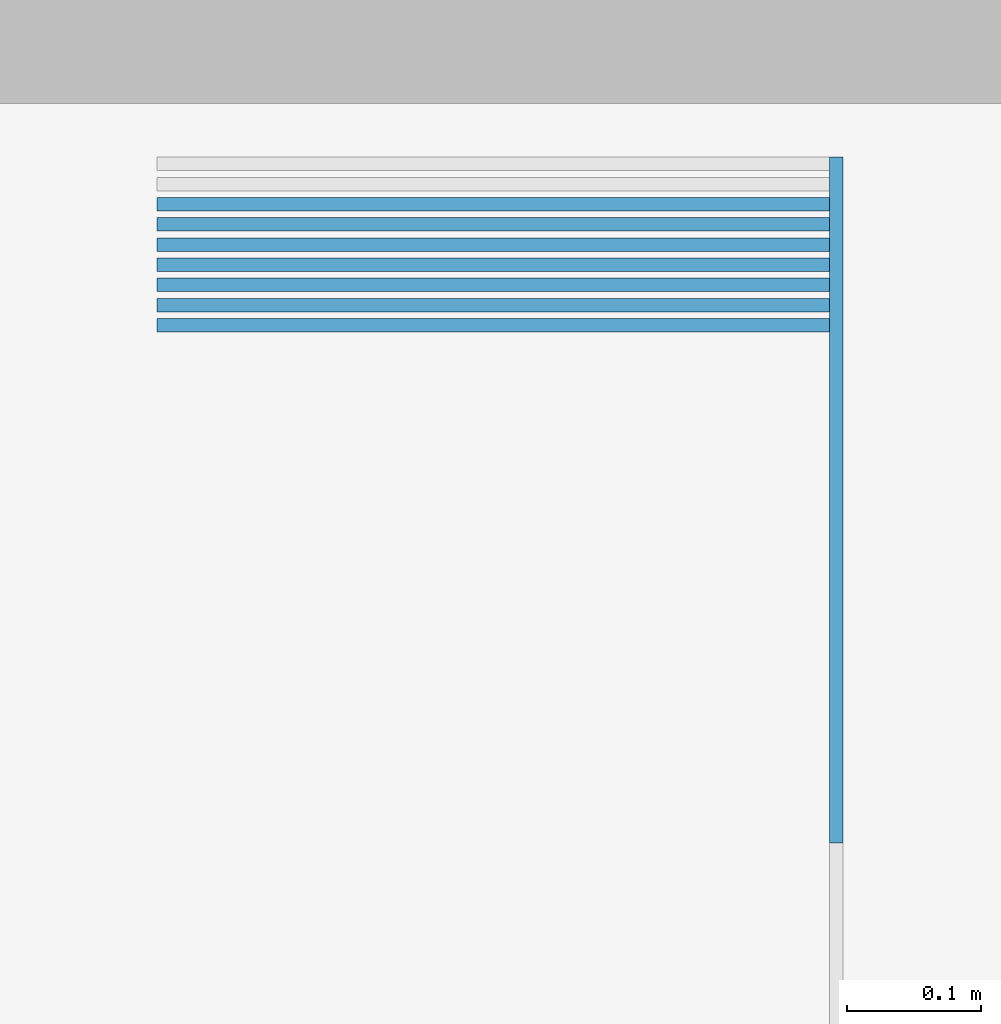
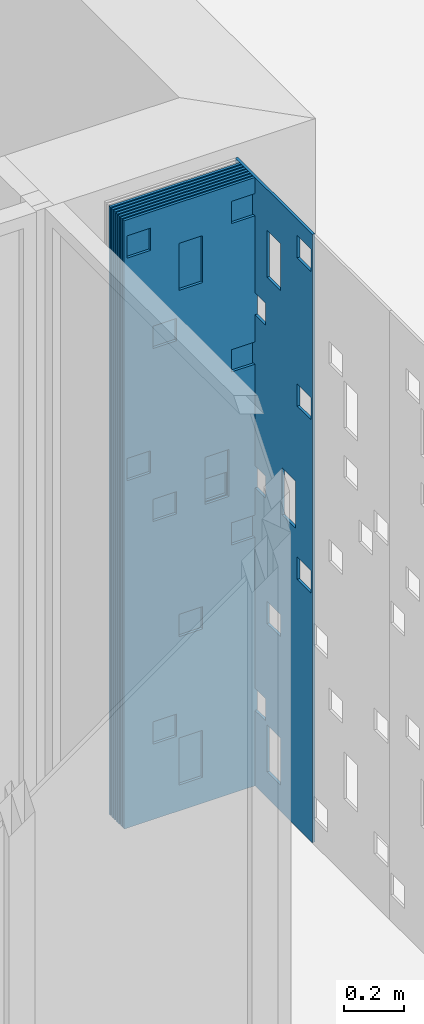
# One storey, part 9 of 51: 8 beams.
"""IFC2X3 building model written with IfcOpenShell, lengths in metres."""

from ifc_helpers import new_model, entity, si_unit, converted_unit, derived_unit, direction, frame, origin, place, context, subcontext, project, spatial, polyline, outline, extrude, material, type_object, element, save


model = new_model("IFC2X3")

# Units and contexts
model_context = context("Model", 3, precision=1e-05, world=origin(), true_north=direction((6.123031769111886e-17, 1.0)))
body_context = subcontext(model_context, "Body", "Model", "MODEL_VIEW")
ifc_project = project(units=[si_unit("LENGTHUNIT", "METRE"), si_unit("AREAUNIT", "SQUARE_METRE"), si_unit("VOLUMEUNIT", "CUBIC_METRE"), converted_unit("PLANEANGLEUNIT", "DEGREE", entity("IfcRatioMeasure", 0.017453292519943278), si_unit("PLANEANGLEUNIT", "RADIAN"), dimensions=[0, 0, 0, 0, 0, 0, 0]), si_unit("MASSUNIT", "GRAM", prefix="KILO"), derived_unit("MASSDENSITYUNIT", [(si_unit("MASSUNIT", "GRAM", prefix="KILO"), 1), (si_unit("LENGTHUNIT", "METRE"), -3)]), derived_unit("MOMENTOFINERTIAUNIT", [(si_unit("LENGTHUNIT", "METRE"), 4)]), si_unit("TIMEUNIT", "SECOND"), si_unit("FREQUENCYUNIT", "HERTZ"), si_unit("THERMODYNAMICTEMPERATUREUNIT", "DEGREE_CELSIUS"), derived_unit("THERMALTRANSMITTANCEUNIT", [(si_unit("MASSUNIT", "GRAM", prefix="KILO"), 1), (si_unit("THERMODYNAMICTEMPERATUREUNIT", "KELVIN"), -1), (si_unit("TIMEUNIT", "SECOND"), -3)]), derived_unit("THERMALCONDUCTANCEUNIT", [(si_unit("MASSUNIT", "GRAM", prefix="KILO"), 1), (si_unit("LENGTHUNIT", "METRE"), 1), (si_unit("THERMODYNAMICTEMPERATUREUNIT", "KELVIN"), -1), (si_unit("TIMEUNIT", "SECOND"), -3)]), derived_unit("VOLUMETRICFLOWRATEUNIT", [(si_unit("LENGTHUNIT", "METRE"), 3), (si_unit("TIMEUNIT", "SECOND"), -1)]), derived_unit("MASSFLOWRATEUNIT", [(si_unit("MASSUNIT", "GRAM", prefix="KILO"), 1), (si_unit("TIMEUNIT", "SECOND"), -1)]), derived_unit("ROTATIONALFREQUENCYUNIT", [(si_unit("TIMEUNIT", "SECOND"), -1)]), si_unit("ELECTRICCURRENTUNIT", "AMPERE"), si_unit("ELECTRICVOLTAGEUNIT", "VOLT"), si_unit("POWERUNIT", "WATT"), si_unit("FORCEUNIT", "NEWTON", prefix="KILO"), si_unit("ILLUMINANCEUNIT", "LUX"), si_unit("LUMINOUSFLUXUNIT", "LUMEN"), si_unit("LUMINOUSINTENSITYUNIT", "CANDELA"), derived_unit("USERDEFINED", [(si_unit("MASSUNIT", "GRAM", prefix="KILO"), -1), (si_unit("LENGTHUNIT", "METRE"), -2), (si_unit("TIMEUNIT", "SECOND"), 3), (si_unit("LUMINOUSFLUXUNIT", "LUMEN"), 1)]), derived_unit("USERDEFINED", [(si_unit("MASSUNIT", "GRAM", prefix="KILO"), 1), (si_unit("LENGTHUNIT", "METRE"), 3), (si_unit("TIMEUNIT", "SECOND"), -3), (si_unit("ELECTRICCURRENTUNIT", "AMPERE"), -2)]), derived_unit("USERDEFINED", [(si_unit("LENGTHUNIT", "METRE"), 2), (si_unit("TIMEUNIT", "SECOND"), -2)]), derived_unit("SOUNDPOWERUNIT", [(si_unit("MASSUNIT", "GRAM", prefix="KILO"), 1), (si_unit("LENGTHUNIT", "METRE"), 2), (si_unit("TIMEUNIT", "SECOND"), -3)]), derived_unit("SOUNDPRESSUREUNIT", [(si_unit("MASSUNIT", "GRAM", prefix="KILO"), 1), (si_unit("LENGTHUNIT", "METRE"), -1), (si_unit("TIMEUNIT", "SECOND"), -2)]), derived_unit("LINEARVELOCITYUNIT", [(si_unit("LENGTHUNIT", "METRE"), 1), (si_unit("TIMEUNIT", "SECOND"), -1)]), si_unit("PRESSUREUNIT", "PASCAL"), derived_unit("USERDEFINED", [(si_unit("LENGTHUNIT", "METRE"), -2), (si_unit("MASSUNIT", "GRAM", prefix="KILO"), 1), (si_unit("TIMEUNIT", "SECOND"), -2)]), derived_unit("LINEARFORCEUNIT", [(si_unit("MASSUNIT", "GRAM", prefix="KILO"), 1), (si_unit("LENGTHUNIT", "METRE"), 1), (si_unit("TIMEUNIT", "SECOND"), -2), (si_unit("LENGTHUNIT", "METRE"), -1)]), derived_unit("PLANARFORCEUNIT", [(si_unit("MASSUNIT", "GRAM", prefix="KILO"), 1), (si_unit("LENGTHUNIT", "METRE"), 1), (si_unit("TIMEUNIT", "SECOND"), -2), (si_unit("LENGTHUNIT", "METRE"), -2)]), derived_unit("SPECIFICHEATCAPACITYUNIT", [(si_unit("LENGTHUNIT", "METRE"), 2), (si_unit("TIMEUNIT", "SECOND"), -2), (si_unit("THERMODYNAMICTEMPERATUREUNIT", "KELVIN"), -1)]), derived_unit("VAPORPERMEABILITYUNIT", [(si_unit("TIMEUNIT", "SECOND"), 1), (si_unit("LENGTHUNIT", "METRE"), -1)]), derived_unit("DYNAMICVISCOSITYUNIT", [(si_unit("MASSUNIT", "GRAM", prefix="KILO"), 1), (si_unit("LENGTHUNIT", "METRE"), -1), (si_unit("TIMEUNIT", "SECOND"), -1)]), derived_unit("THERMALEXPANSIONCOEFFICIENTUNIT", [(si_unit("THERMODYNAMICTEMPERATUREUNIT", "KELVIN"), -1)])], contexts=[model_context])

# Site, building, storey
site_placement = place(None, origin())
site = spatial("IfcSite", under=ifc_project, at=site_placement, Name="Default", CompositionType="ELEMENT")
building_placement = place(site_placement, origin())
building = spatial("IfcBuilding", under=site, at=building_placement, CompositionType="ELEMENT")
storey_placement = place(building_placement, frame((0.0, 0.0, 3.06)))
storey = spatial("IfcBuildingStorey", under=building, at=storey_placement, Name="ÉTAGE", CompositionType="ELEMENT", Elevation=3.06)

# Beams
ifc_material = material(Name="Peinture - Gris foncé")
beam_type_1 = type_object("IfcBeamType", Name="Poutre-017 459277:Poutre-017 459277", PredefinedType="NOTDEFINED")
beam_1_placement = place(storey_placement, origin())
element("IfcBeam", 1, at=beam_1_placement, inside=storey, type_object=beam_type_1, material=ifc_material, Name="Poutre-017", ObjectType="Poutre-017 459277:Poutre-017 459277", context=body_context, shape_type="SweptSolid", body=[
    extrude(outline(polyline([(-1.2299999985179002, -0.25500001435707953), (1.2299999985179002, -0.25500001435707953), (1.2299999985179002, 0.2550000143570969), (-1.2299999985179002, 0.2550000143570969), (-1.2299999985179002, -0.25500001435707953)]), holes=[polyline([(-0.33499998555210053, 0.15499994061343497), (-0.42500001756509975, 0.15499994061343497), (-0.42500001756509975, 0.24500001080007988), (-0.33499998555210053, 0.24500001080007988), (-0.33499998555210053, 0.15499994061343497)]), polyline([(-1.1249999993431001, 0.24500001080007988), (-1.0349999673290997, 0.24500001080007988), (-1.0349999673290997, 0.15499994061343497), (-1.1249999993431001, 0.15499994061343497), (-1.1249999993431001, 0.24500001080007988)]), polyline([(-0.6250000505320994, 0.054999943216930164), (-0.6250000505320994, 0.14499997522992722), (-0.5349999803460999, 0.14499997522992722), (-0.5349999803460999, 0.054999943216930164), (-0.6250000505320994, 0.054999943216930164)]), polyline([(-0.9250000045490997, 0.04499993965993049), (-0.7350000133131, 0.04499993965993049), (-0.7350000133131, -0.0449999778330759), (-0.9250000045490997, -0.0449999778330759), (-0.9250000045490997, 0.04499993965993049)]), polyline([(-0.5250000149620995, -0.24500001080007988), (-0.5250000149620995, -0.1549999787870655), (-0.4349999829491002, -0.1549999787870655), (-0.4349999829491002, -0.24500001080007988), (-0.5250000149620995, -0.24500001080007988)]), polyline([(-1.0250000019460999, -0.24500001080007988), (-1.0250000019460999, -0.1549999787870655), (-0.9349999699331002, -0.1549999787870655), (-0.9349999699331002, -0.24500001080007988), (-1.0250000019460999, -0.24500001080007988)]), polyline([(0.8649999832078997, 0.054999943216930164), (0.7749999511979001, 0.054999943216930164), (0.7749999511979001, 0.14499997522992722), (0.8649999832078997, 0.14499997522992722), (0.8649999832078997, 0.054999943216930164)]), polyline([(-0.024999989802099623, 0.054999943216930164), (-0.024999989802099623, 0.14499997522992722), (0.06500004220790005, 0.14499997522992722), (0.06500004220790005, 0.054999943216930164), (-0.024999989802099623, 0.054999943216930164)]), polyline([(0.3749999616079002, 0.04499993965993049), (0.4650000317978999, 0.04499993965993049), (0.4650000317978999, -0.0449999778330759), (0.3749999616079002, -0.0449999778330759), (0.3749999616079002, 0.04499993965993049)]), polyline([(0.7650000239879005, -0.0449999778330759), (0.5749999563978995, -0.0449999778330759), (0.5749999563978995, 0.04499993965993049), (0.7650000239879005, 0.04499993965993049), (0.7650000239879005, -0.0449999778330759)]), polyline([(0.2649999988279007, -0.14499997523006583), (0.17499996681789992, -0.14499997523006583), (0.17499996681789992, -0.055000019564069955), (0.2649999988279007, -0.055000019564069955), (0.2649999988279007, -0.14499997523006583)]), polyline([(0.3649999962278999, -0.24500001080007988), (0.27499996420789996, -0.24500001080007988), (0.27499996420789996, -0.1549999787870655), (0.3649999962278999, -0.1549999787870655), (0.3649999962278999, -0.24500001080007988)])]), frame((151.72575229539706, 12.3322096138, 2.4600000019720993), z_axis=(0.0, 1.0, 0.0), x_axis=(0.0, 0.0, 1.0)), (0.0, 0.0, 1.0), 0.009999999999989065),
])
beam_2_placement = place(storey_placement, origin())
element("IfcBeam", 2, at=beam_2_placement, inside=storey, type_object=beam_type_1, material=ifc_material, Name="Poutre-017", ObjectType="Poutre-017 459277:Poutre-017 459277", context=body_context, shape_type="SweptSolid", body=[
    extrude(outline(polyline([(-0.25500001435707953, -1.2299999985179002), (0.2550000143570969, -1.2299999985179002), (0.2550000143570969, 1.2299999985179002), (-0.25500001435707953, 1.2299999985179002), (-0.25500001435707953, -1.2299999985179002)]), holes=[polyline([(0.15499994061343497, -0.33499998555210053), (0.24500001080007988, -0.33499998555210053), (0.24500001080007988, -0.42500001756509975), (0.15499994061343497, -0.42500001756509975), (0.15499994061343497, -0.33499998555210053)]), polyline([(0.24500001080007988, -1.1249999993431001), (0.15499994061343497, -1.1249999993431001), (0.15499994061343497, -1.0349999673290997), (0.24500001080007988, -1.0349999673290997), (0.24500001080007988, -1.1249999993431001)]), polyline([(0.054999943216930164, -0.6250000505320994), (0.054999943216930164, -0.5349999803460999), (0.14499997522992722, -0.5349999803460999), (0.14499997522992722, -0.6250000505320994), (0.054999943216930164, -0.6250000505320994)]), polyline([(0.04499993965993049, -0.9250000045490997), (-0.0449999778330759, -0.9250000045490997), (-0.0449999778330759, -0.7350000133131), (0.04499993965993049, -0.7350000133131), (0.04499993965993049, -0.9250000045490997)]), polyline([(-0.24500001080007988, -0.5250000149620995), (-0.24500001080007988, -0.4349999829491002), (-0.1549999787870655, -0.4349999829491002), (-0.1549999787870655, -0.5250000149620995), (-0.24500001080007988, -0.5250000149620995)]), polyline([(-0.24500001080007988, -1.0250000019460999), (-0.24500001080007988, -0.9349999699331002), (-0.1549999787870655, -0.9349999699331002), (-0.1549999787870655, -1.0250000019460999), (-0.24500001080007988, -1.0250000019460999)]), polyline([(0.054999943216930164, 0.8649999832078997), (0.14499997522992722, 0.8649999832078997), (0.14499997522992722, 0.7749999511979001), (0.054999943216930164, 0.7749999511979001), (0.054999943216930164, 0.8649999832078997)]), polyline([(0.054999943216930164, -0.024999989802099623), (0.054999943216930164, 0.06500004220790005), (0.14499997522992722, 0.06500004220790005), (0.14499997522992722, -0.024999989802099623), (0.054999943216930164, -0.024999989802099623)]), polyline([(0.04499993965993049, 0.3749999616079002), (-0.0449999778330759, 0.3749999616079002), (-0.0449999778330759, 0.4650000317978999), (0.04499993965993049, 0.4650000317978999), (0.04499993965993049, 0.3749999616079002)]), polyline([(-0.0449999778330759, 0.7650000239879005), (0.04499993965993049, 0.7650000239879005), (0.04499993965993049, 0.5749999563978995), (-0.0449999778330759, 0.5749999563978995), (-0.0449999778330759, 0.7650000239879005)]), polyline([(-0.14499997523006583, 0.2649999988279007), (-0.055000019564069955, 0.2649999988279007), (-0.055000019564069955, 0.17499996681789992), (-0.14499997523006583, 0.17499996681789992), (-0.14499997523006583, 0.2649999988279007)]), polyline([(-0.24500001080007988, 0.3649999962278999), (-0.1549999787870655, 0.3649999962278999), (-0.1549999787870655, 0.27499996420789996), (-0.24500001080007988, 0.27499996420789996), (-0.24500001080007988, 0.3649999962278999)])]), frame((151.7257523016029, 12.377209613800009, 2.4600000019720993), z_axis=(0.0, 1.0, 0.0), x_axis=(-1.0, 0.0, 0.0)), (0.0, 0.0, 1.0), 0.009999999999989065),
])
beam_type_2 = type_object("IfcBeamType", Name="Poutre-017 459324:Poutre-017 459324", PredefinedType="NOTDEFINED")
beam_3_placement = place(storey_placement, origin())
element("IfcBeam", 3, at=beam_3_placement, inside=storey, type_object=beam_type_2, material=ifc_material, Name="Poutre-017", ObjectType="Poutre-017 459324:Poutre-017 459324", context=body_context, shape_type="SweptSolid", body=[
    extrude(outline(polyline([(-0.2549999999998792, -1.2299999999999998), (0.2549999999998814, -1.2299999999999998), (0.2549999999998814, 1.2300000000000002), (-0.2549999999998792, 1.2300000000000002), (-0.2549999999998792, -1.2299999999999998)]), holes=[polyline([(-0.054999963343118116, 0.8349999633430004), (-0.14499996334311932, 0.8349999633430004), (-0.14499996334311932, 0.9249999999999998), (-0.054999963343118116, 0.9249999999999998), (-0.054999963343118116, 0.8349999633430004)]), polyline([(0.04499999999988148, 0.5250000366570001), (0.04499999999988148, 0.43499996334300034), (-0.044999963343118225, 0.43499996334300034), (-0.044999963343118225, 0.5250000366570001), (0.04499999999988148, 0.5250000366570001)]), polyline([(0.04499999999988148, 0.9349999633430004), (-0.044999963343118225, 0.9349999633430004), (-0.044999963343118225, 1.1250000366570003), (0.04499999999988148, 1.1250000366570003), (0.04499999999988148, 0.9349999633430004)]), polyline([(0.2449999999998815, 0.22500000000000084), (0.2449999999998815, 0.13499999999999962), (0.15499999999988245, 0.13499999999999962), (0.15499999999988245, 0.22500000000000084), (0.2449999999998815, 0.22500000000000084)]), polyline([(-0.15499996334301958, -1.0749999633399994), (-0.15499996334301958, -1.1649999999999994), (-0.24499999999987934, -1.1649999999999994), (-0.24499999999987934, -1.0749999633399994), (-0.15499996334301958, -1.0749999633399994)]), polyline([(-0.044999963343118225, -0.8750000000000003), (0.04499999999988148, -0.8750000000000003), (0.04499999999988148, -1.0649999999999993), (-0.044999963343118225, -1.0649999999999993), (-0.044999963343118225, -0.8750000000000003)]), polyline([(0.2449999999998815, -1.1649999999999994), (0.15499999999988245, -1.1649999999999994), (0.15499999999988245, -1.0749999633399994), (0.2449999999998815, -1.0749999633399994), (0.2449999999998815, -1.1649999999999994)]), polyline([(-0.15499996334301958, -0.26500003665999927), (-0.24499999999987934, -0.26500003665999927), (-0.24499999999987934, -0.1749999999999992), (-0.15499996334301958, -0.1749999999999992), (-0.15499996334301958, -0.26500003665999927)]), polyline([(-0.054999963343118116, -0.06500000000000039), (-0.14499996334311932, -0.06500000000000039), (-0.14499996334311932, 0.025000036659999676), (-0.054999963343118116, 0.025000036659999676), (-0.054999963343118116, -0.06500000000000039)]), polyline([(-0.054999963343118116, -0.7650000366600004), (-0.14499996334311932, -0.7650000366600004), (-0.14499996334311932, -0.6749999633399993), (-0.054999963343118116, -0.6749999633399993), (-0.054999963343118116, -0.7650000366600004)]), polyline([(0.14499999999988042, -0.16500003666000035), (0.0550000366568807, -0.16500003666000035), (0.0550000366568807, 0.02499999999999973), (0.14499999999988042, 0.02499999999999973), (0.14499999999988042, -0.16500003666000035)]), polyline([(0.2449999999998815, -0.4750000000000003), (0.2449999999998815, -0.5649999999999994), (0.15499999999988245, -0.5649999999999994), (0.15499999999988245, -0.4750000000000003), (0.2449999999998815, -0.4750000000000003)])]), frame((151.970752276, 12.19220961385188, 2.459999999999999), z_axis=(1.0, 0.0, 0.0), x_axis=(0.0, -1.0, 0.0)), (0.0, 0.0, 1.0), 0.009999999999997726),
])
beam_4_placement = place(storey_placement, origin())
element("IfcBeam", 4, at=beam_4_placement, inside=storey, type_object=beam_type_2, material=ifc_material, Name="Poutre-017", ObjectType="Poutre-017 459324:Poutre-017 459324", context=body_context, shape_type="SweptSolid", body=[
    extrude(outline(polyline([(-0.2549999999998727, -1.2299999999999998), (0.25499999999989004, -1.2299999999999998), (0.25499999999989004, 1.2300000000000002), (-0.2549999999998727, 1.2300000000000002), (-0.2549999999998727, -1.2299999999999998)]), holes=[polyline([(-0.05499996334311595, 0.8349999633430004), (-0.14499996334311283, 0.8349999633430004), (-0.14499996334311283, 0.9249999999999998), (-0.05499996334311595, 0.9249999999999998), (-0.05499996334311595, 0.8349999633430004)]), polyline([(0.04499999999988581, 0.5250000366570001), (0.04499999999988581, 0.43499996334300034), (-0.044999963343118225, 0.43499996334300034), (-0.044999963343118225, 0.5250000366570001), (0.04499999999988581, 0.5250000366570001)]), polyline([(0.04499999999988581, 0.9349999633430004), (-0.044999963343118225, 0.9349999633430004), (-0.044999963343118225, 1.1250000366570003), (0.04499999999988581, 1.1250000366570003), (0.04499999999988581, 0.9349999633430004)]), polyline([(0.24499999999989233, 0.22500000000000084), (0.24499999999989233, 0.13499999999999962), (0.15499999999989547, 0.13499999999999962), (0.15499999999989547, 0.22500000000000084), (0.24499999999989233, 0.22500000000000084)]), polyline([(-0.15499996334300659, -1.0749999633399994), (-0.15499996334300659, -1.1649999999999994), (-0.244999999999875, -1.1649999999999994), (-0.244999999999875, -1.0749999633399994), (-0.15499996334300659, -1.0749999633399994)]), polyline([(-0.044999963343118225, -0.8750000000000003), (0.04499999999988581, -0.8750000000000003), (0.04499999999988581, -1.0649999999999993), (-0.044999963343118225, -1.0649999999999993), (-0.044999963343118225, -0.8750000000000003)]), polyline([(0.24499999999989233, -1.1649999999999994), (0.15499999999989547, -1.1649999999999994), (0.15499999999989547, -1.0749999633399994), (0.24499999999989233, -1.0749999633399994), (0.24499999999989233, -1.1649999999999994)]), polyline([(-0.15499996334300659, -0.26500003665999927), (-0.244999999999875, -0.26500003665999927), (-0.244999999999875, -0.1749999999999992), (-0.15499996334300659, -0.1749999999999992), (-0.15499996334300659, -0.26500003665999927)]), polyline([(-0.05499996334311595, -0.06500000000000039), (-0.14499996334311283, -0.06500000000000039), (-0.14499996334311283, 0.025000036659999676), (-0.05499996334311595, 0.025000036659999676), (-0.05499996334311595, -0.06500000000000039)]), polyline([(-0.05499996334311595, -0.7650000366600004), (-0.14499996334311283, -0.7650000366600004), (-0.14499996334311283, -0.6749999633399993), (-0.05499996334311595, -0.6749999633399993), (-0.05499996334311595, -0.7650000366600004)]), polyline([(0.14499999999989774, -0.16500003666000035), (0.055000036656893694, -0.16500003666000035), (0.055000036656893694, 0.02499999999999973), (0.14499999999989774, 0.02499999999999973), (0.14499999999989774, -0.16500003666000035)]), polyline([(0.24499999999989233, -0.4750000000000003), (0.24499999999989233, -0.5649999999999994), (0.15499999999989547, -0.5649999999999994), (0.15499999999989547, -0.4750000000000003), (0.24499999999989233, -0.4750000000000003)])]), frame((151.7257522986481, 12.31720961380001, 2.459999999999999), z_axis=(0.0, 1.0, 0.0), x_axis=(1.0, 0.0, 0.0)), (0.0, 0.0, 1.0), 0.009999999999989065),
])
beam_5_placement = place(storey_placement, origin())
element("IfcBeam", 5, at=beam_5_placement, inside=storey, type_object=beam_type_2, material=ifc_material, Name="Poutre-017", ObjectType="Poutre-017 459324:Poutre-017 459324", context=body_context, shape_type="SweptSolid", body=[
    extrude(outline(polyline([(-1.2299999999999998, -0.25499999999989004), (1.2300000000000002, -0.25499999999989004), (1.2300000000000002, 0.2549999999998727), (-1.2299999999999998, 0.2549999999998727), (-1.2299999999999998, -0.25499999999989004)]), holes=[polyline([(0.8349999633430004, -0.05499996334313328), (0.9249999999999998, -0.05499996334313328), (0.9249999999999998, -0.14499996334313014), (0.8349999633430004, -0.14499996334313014), (0.8349999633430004, -0.05499996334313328)]), polyline([(0.5250000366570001, 0.04499999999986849), (0.5250000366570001, -0.04499996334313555), (0.43499996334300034, -0.04499996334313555), (0.43499996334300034, 0.04499999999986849), (0.5250000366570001, 0.04499999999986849)]), polyline([(0.9349999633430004, 0.04499999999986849), (1.1250000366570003, 0.04499999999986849), (1.1250000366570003, -0.04499996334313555), (0.9349999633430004, -0.04499996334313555), (0.9349999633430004, 0.04499999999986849)]), polyline([(0.22500000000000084, 0.244999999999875), (0.22500000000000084, 0.15499999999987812), (0.13499999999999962, 0.15499999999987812), (0.13499999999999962, 0.244999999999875), (0.22500000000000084, 0.244999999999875)]), polyline([(-1.0749999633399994, -0.1549999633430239), (-1.0749999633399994, -0.24499999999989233), (-1.1649999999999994, -0.24499999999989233), (-1.1649999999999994, -0.1549999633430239), (-1.0749999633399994, -0.1549999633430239)]), polyline([(-1.1649999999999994, 0.244999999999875), (-1.0749999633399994, 0.244999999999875), (-1.0749999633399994, 0.15499999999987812), (-1.1649999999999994, 0.15499999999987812), (-1.1649999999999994, 0.244999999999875)]), polyline([(-0.26500003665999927, -0.1549999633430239), (-0.1749999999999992, -0.1549999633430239), (-0.1749999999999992, -0.24499999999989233), (-0.26500003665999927, -0.24499999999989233), (-0.26500003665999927, -0.1549999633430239)]), polyline([(-0.06500000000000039, -0.05499996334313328), (0.025000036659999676, -0.05499996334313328), (0.025000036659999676, -0.14499996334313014), (-0.06500000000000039, -0.14499996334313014), (-0.06500000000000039, -0.05499996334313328)]), polyline([(-0.7650000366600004, -0.05499996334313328), (-0.6749999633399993, -0.05499996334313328), (-0.6749999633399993, -0.14499996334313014), (-0.7650000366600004, -0.14499996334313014), (-0.7650000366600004, -0.05499996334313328)]), polyline([(-0.8750000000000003, -0.04499996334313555), (-1.0649999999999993, -0.04499996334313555), (-1.0649999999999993, 0.04499999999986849), (-0.8750000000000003, 0.04499999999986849), (-0.8750000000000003, -0.04499996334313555)]), polyline([(-0.16500003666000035, 0.14499999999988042), (0.02499999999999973, 0.14499999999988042), (0.02499999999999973, 0.05500003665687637), (-0.16500003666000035, 0.05500003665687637), (-0.16500003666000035, 0.14499999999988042)]), polyline([(-0.4750000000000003, 0.244999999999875), (-0.4750000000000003, 0.15499999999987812), (-0.5649999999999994, 0.15499999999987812), (-0.5649999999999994, 0.244999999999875), (-0.4750000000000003, 0.244999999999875)])]), frame((151.72575229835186, 12.362209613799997, 2.459999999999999), z_axis=(0.0, 1.0, 0.0), x_axis=(0.0, 0.0, -1.0)), (0.0, 0.0, 1.0), 0.009999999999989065),
])
beam_6_placement = place(storey_placement, origin())
element("IfcBeam", 6, at=beam_6_placement, inside=storey, type_object=beam_type_2, material=ifc_material, Name="Poutre-017", ObjectType="Poutre-017 459324:Poutre-017 459324", context=body_context, shape_type="SweptSolid", body=[
    extrude(outline(polyline([(-0.2549999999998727, -1.2299999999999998), (0.25499999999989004, -1.2299999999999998), (0.25499999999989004, 1.2300000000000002), (-0.2549999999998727, 1.2300000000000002), (-0.2549999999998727, -1.2299999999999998)]), holes=[polyline([(-0.05499996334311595, 0.8349999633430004), (-0.14499996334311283, 0.8349999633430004), (-0.14499996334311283, 0.9249999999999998), (-0.05499996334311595, 0.9249999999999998), (-0.05499996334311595, 0.8349999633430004)]), polyline([(0.04499999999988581, 0.5250000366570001), (0.04499999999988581, 0.43499996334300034), (-0.044999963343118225, 0.43499996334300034), (-0.044999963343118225, 0.5250000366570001), (0.04499999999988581, 0.5250000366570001)]), polyline([(0.04499999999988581, 0.9349999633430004), (-0.044999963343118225, 0.9349999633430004), (-0.044999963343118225, 1.1250000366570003), (0.04499999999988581, 1.1250000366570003), (0.04499999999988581, 0.9349999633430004)]), polyline([(0.24499999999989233, 0.22500000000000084), (0.24499999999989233, 0.13499999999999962), (0.15499999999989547, 0.13499999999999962), (0.15499999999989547, 0.22500000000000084), (0.24499999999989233, 0.22500000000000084)]), polyline([(-0.15499996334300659, -1.0749999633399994), (-0.15499996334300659, -1.1649999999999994), (-0.244999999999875, -1.1649999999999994), (-0.244999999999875, -1.0749999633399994), (-0.15499996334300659, -1.0749999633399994)]), polyline([(-0.044999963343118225, -0.8750000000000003), (0.04499999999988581, -0.8750000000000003), (0.04499999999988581, -1.0649999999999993), (-0.044999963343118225, -1.0649999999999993), (-0.044999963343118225, -0.8750000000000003)]), polyline([(0.24499999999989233, -1.1649999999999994), (0.15499999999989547, -1.1649999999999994), (0.15499999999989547, -1.0749999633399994), (0.24499999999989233, -1.0749999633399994), (0.24499999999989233, -1.1649999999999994)]), polyline([(-0.15499996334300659, -0.26500003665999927), (-0.244999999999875, -0.26500003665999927), (-0.244999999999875, -0.1749999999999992), (-0.15499996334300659, -0.1749999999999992), (-0.15499996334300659, -0.26500003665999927)]), polyline([(-0.05499996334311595, -0.06500000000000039), (-0.14499996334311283, -0.06500000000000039), (-0.14499996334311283, 0.025000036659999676), (-0.05499996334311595, 0.025000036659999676), (-0.05499996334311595, -0.06500000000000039)]), polyline([(-0.05499996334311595, -0.7650000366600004), (-0.14499996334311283, -0.7650000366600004), (-0.14499996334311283, -0.6749999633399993), (-0.05499996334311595, -0.6749999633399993), (-0.05499996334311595, -0.7650000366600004)]), polyline([(0.14499999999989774, -0.16500003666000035), (0.055000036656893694, -0.16500003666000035), (0.055000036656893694, 0.02499999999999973), (0.14499999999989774, 0.02499999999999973), (0.14499999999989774, -0.16500003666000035)]), polyline([(0.24499999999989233, -0.4750000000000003), (0.24499999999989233, -0.5649999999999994), (0.15499999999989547, -0.5649999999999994), (0.15499999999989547, -0.4750000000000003), (0.24499999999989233, -0.4750000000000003)])]), frame((151.7257522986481, 12.407209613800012, 2.459999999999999), z_axis=(0.0, 1.0, 0.0), x_axis=(1.0, 0.0, 0.0)), (0.0, 0.0, 1.0), 0.009999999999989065),
])
beam_type_3 = type_object("IfcBeamType", Name="Poutre-017 459230:Poutre-017 459230", PredefinedType="NOTDEFINED")
beam_7_placement = place(storey_placement, origin())
element("IfcBeam", 7, at=beam_7_placement, inside=storey, type_object=beam_type_3, material=ifc_material, Name="Poutre-017", ObjectType="Poutre-017 459230:Poutre-017 459230", context=body_context, shape_type="SweptSolid", body=[
    extrude(outline(polyline([(-0.25500000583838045, -1.2299999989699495), (0.25500000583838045, -1.2299999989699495), (0.25500000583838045, 1.22999999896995), (-0.25500000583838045, 1.22999999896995), (-0.25500000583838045, -1.2299999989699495)]), holes=[polyline([(-0.24500002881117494, 1.1250000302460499), (-0.1549999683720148, 1.1250000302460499), (-0.1549999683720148, 1.03499996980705), (-0.24500002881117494, 1.03499996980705), (-0.24500002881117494, 1.1250000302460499)]), polyline([(-0.054999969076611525, 0.4250000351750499), (-0.054999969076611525, 0.33499997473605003), (-0.14499999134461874, 0.33499997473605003), (-0.14499999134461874, 0.4250000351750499), (-0.054999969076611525, 0.4250000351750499)]), polyline([(0.044999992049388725, 0.5350000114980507), (-0.04499999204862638, 0.5350000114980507), (-0.04499999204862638, 0.7249999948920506), (0.044999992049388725, 0.7249999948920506), (0.044999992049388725, 0.5350000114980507)]), polyline([(0.24499999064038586, 0.9250000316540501), (0.24499999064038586, 0.8350000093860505), (0.15500000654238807, 0.8350000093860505), (0.15500000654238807, 0.9250000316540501), (0.24499999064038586, 0.9250000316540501)]), polyline([(0.15500000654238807, 0.12500003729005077), (0.24499999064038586, 0.12500003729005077), (0.24499999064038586, 0.03500001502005), (0.15500000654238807, 0.03500001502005), (0.15500000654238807, 0.12500003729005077)]), polyline([(-0.14499999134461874, -0.9749999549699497), (-0.054999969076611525, -0.9749999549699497), (-0.054999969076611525, -1.06499997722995), (-0.14499999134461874, -1.06499997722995), (-0.14499999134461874, -0.9749999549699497)]), polyline([(-0.24500002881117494, 0.025000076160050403), (-0.1549999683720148, 0.025000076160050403), (-0.1549999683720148, -0.06499998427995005), (-0.24500002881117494, -0.06499998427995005), (-0.24500002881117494, 0.025000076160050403)]), polyline([(-0.054999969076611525, -0.2650000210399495), (-0.14499999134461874, -0.2650000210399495), (-0.14499999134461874, -0.17499996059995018), (-0.054999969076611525, -0.17499996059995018), (-0.054999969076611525, -0.2650000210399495)]), polyline([(-0.04499999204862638, -0.5749999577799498), (0.044999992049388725, -0.5749999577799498), (0.044999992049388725, -0.6650000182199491), (-0.04499999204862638, -0.6650000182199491), (-0.04499999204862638, -0.5749999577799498)]), polyline([(0.044999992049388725, -0.7749999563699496), (0.044999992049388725, -0.965000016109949), (-0.04499999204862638, -0.965000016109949), (-0.04499999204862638, -0.7749999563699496), (0.044999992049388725, -0.7749999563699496)]), polyline([(0.14499999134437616, -0.4650000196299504), (0.05500000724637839, -0.4650000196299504), (0.05500000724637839, -0.37499995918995), (0.14499999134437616, -0.37499995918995), (0.14499999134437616, -0.4650000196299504)]), polyline([(0.24499999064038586, -0.4749999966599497), (0.24499999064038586, -0.5650000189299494), (0.15500000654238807, -0.5650000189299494), (0.15500000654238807, -0.4749999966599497), (0.24499999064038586, -0.4749999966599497)])]), frame((151.7257523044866, 12.34720961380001, 2.46000001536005), z_axis=(0.0, 1.0, 0.0), x_axis=(1.0, 0.0, 0.0)), (0.0, 0.0, 1.0), 0.009999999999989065),
])
beam_8_placement = place(storey_placement, origin())
element("IfcBeam", 8, at=beam_8_placement, inside=storey, type_object=beam_type_3, material=ifc_material, Name="Poutre-017", ObjectType="Poutre-017 459230:Poutre-017 459230", context=body_context, shape_type="SweptSolid", body=[
    extrude(outline(polyline([(-1.2299999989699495, -0.25500000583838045), (1.22999999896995, -0.25500000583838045), (1.22999999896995, 0.25500000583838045), (-1.2299999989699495, 0.25500000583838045), (-1.2299999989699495, -0.25500000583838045)]), holes=[polyline([(0.12500003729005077, 0.15500000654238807), (0.03500001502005, 0.15500000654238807), (0.03500001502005, 0.24499999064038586), (0.12500003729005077, 0.24499999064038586), (0.12500003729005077, 0.15500000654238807)]), polyline([(1.1250000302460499, -0.24500002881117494), (1.03499996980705, -0.24500002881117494), (1.03499996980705, -0.1549999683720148), (1.1250000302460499, -0.1549999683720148), (1.1250000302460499, -0.24500002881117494)]), polyline([(0.4250000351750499, -0.054999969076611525), (0.4250000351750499, -0.14499999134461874), (0.33499997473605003, -0.14499999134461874), (0.33499997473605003, -0.054999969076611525), (0.4250000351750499, -0.054999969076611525)]), polyline([(0.5350000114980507, 0.044999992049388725), (0.7249999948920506, 0.044999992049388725), (0.7249999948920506, -0.04499999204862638), (0.5350000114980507, -0.04499999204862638), (0.5350000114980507, 0.044999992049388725)]), polyline([(0.9250000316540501, 0.24499999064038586), (0.9250000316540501, 0.15500000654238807), (0.8350000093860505, 0.15500000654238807), (0.8350000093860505, 0.24499999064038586), (0.9250000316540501, 0.24499999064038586)]), polyline([(0.025000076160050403, -0.24500002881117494), (-0.06499998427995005, -0.24500002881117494), (-0.06499998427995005, -0.1549999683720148), (0.025000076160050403, -0.1549999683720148), (0.025000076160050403, -0.24500002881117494)]), polyline([(-0.2650000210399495, -0.054999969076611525), (-0.17499996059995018, -0.054999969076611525), (-0.17499996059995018, -0.14499999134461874), (-0.2650000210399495, -0.14499999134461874), (-0.2650000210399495, -0.054999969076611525)]), polyline([(-0.9749999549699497, -0.14499999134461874), (-1.06499997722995, -0.14499999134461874), (-1.06499997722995, -0.054999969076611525), (-0.9749999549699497, -0.054999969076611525), (-0.9749999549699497, -0.14499999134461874)]), polyline([(-0.5749999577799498, -0.04499999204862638), (-0.6650000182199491, -0.04499999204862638), (-0.6650000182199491, 0.044999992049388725), (-0.5749999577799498, 0.044999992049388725), (-0.5749999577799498, -0.04499999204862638)]), polyline([(-0.7749999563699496, 0.044999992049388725), (-0.7749999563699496, -0.04499999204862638), (-0.965000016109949, -0.04499999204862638), (-0.965000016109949, 0.044999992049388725), (-0.7749999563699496, 0.044999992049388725)]), polyline([(-0.4650000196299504, 0.14499999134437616), (-0.37499995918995, 0.14499999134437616), (-0.37499995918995, 0.05500000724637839), (-0.4650000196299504, 0.05500000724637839), (-0.4650000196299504, 0.14499999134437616)]), polyline([(-0.4749999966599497, 0.24499999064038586), (-0.4749999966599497, 0.15500000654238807), (-0.5650000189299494, 0.15500000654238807), (-0.5650000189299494, 0.24499999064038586), (-0.4749999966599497, 0.24499999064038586)])]), frame((151.7257522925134, 12.392209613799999, 2.46000001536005), z_axis=(0.0, 1.0, 0.0), x_axis=(0.0, 0.0, -1.0)), (0.0, 0.0, 1.0), 0.009999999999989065),
])

save(model, "model.ifc")
